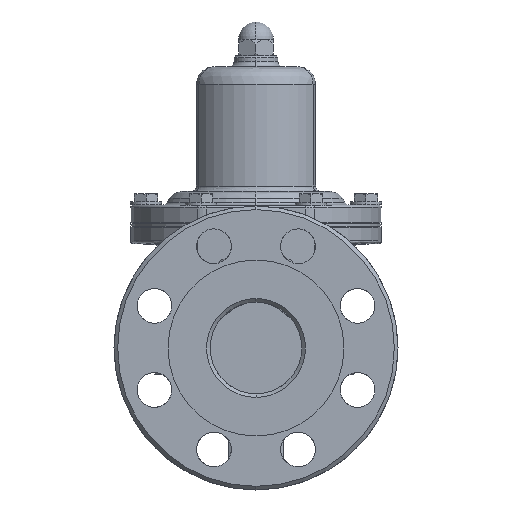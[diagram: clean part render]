
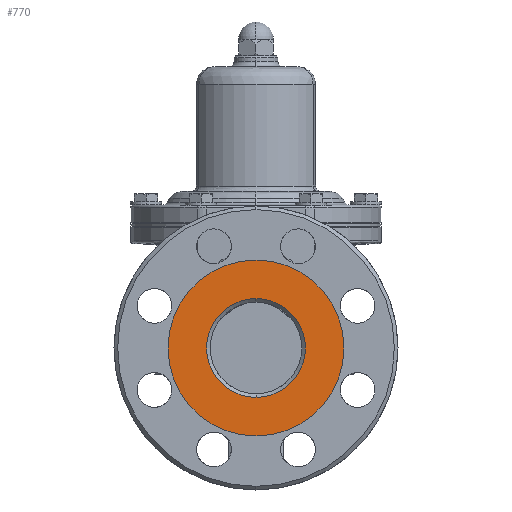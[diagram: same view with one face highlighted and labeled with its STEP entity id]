
A CAD part, left-side view. The second image highlights one B-rep face of the part: STEP entity #770.
In plain terms, the highlighted planar face has unit normal (-1, 0, 0).
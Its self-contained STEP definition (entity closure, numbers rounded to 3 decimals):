
#770=ADVANCED_FACE('',(#4408,#4409),#4407,.T.);
#4407=PLANE('',#10446);
#4408=FACE_OUTER_BOUND('',#10447,.T.);
#4409=FACE_BOUND('',#10448,.T.);
#10443=CARTESIAN_POINT('',(-122.5,-93.138,-106.));
#10444=DIRECTION('',(-1.,0.,0.));
#10445=DIRECTION('',(0.,0.,1.));
#10446=AXIS2_PLACEMENT_3D('',#10443,#10444,#10445);
#10447=EDGE_LOOP('',(#14285,#14286));
#10448=EDGE_LOOP('',(#14287,#14288));
#14285=ORIENTED_EDGE('',*,*,#16275,.T.);
#14286=ORIENTED_EDGE('',*,*,#16276,.T.);
#14287=ORIENTED_EDGE('',*,*,#16277,.F.);
#14288=ORIENTED_EDGE('',*,*,#16278,.F.);
#16275=EDGE_CURVE('',#22986,#22987,#22988,.T.);
#16276=EDGE_CURVE('',#22987,#22986,#22994,.T.);
#16277=EDGE_CURVE('',#23000,#23001,#23002,.T.);
#16278=EDGE_CURVE('',#23001,#23000,#23008,.T.);
#22986=VERTEX_POINT('',#32111);
#22987=VERTEX_POINT('',#32112);
#22988=CIRCLE('',#32116,48.);
#22994=CIRCLE('',#32120,48.);
#23000=VERTEX_POINT('',#32121);
#23001=VERTEX_POINT('',#32122);
#23002=CIRCLE('',#32126,27.);
#23008=CIRCLE('',#32130,27.);
#32111=CARTESIAN_POINT('',(-122.5,0.,48.));
#32112=CARTESIAN_POINT('',(-122.5,0.,-48.));
#32113=CARTESIAN_POINT('',(-122.5,0.,0.));
#32114=DIRECTION('',(-1.,0.,0.));
#32115=DIRECTION('',(0.,0.,1.));
#32116=AXIS2_PLACEMENT_3D('',#32113,#32114,#32115);
#32117=CARTESIAN_POINT('',(-122.5,0.,0.));
#32118=DIRECTION('',(-1.,0.,0.));
#32119=DIRECTION('',(0.,0.,1.));
#32120=AXIS2_PLACEMENT_3D('',#32117,#32118,#32119);
#32121=CARTESIAN_POINT('',(-122.5,0.,-27.));
#32122=CARTESIAN_POINT('',(-122.5,0.,27.));
#32123=CARTESIAN_POINT('',(-122.5,0.,0.));
#32124=DIRECTION('',(-1.,0.,0.));
#32125=DIRECTION('',(0.,0.,1.));
#32126=AXIS2_PLACEMENT_3D('',#32123,#32124,#32125);
#32127=CARTESIAN_POINT('',(-122.5,0.,0.));
#32128=DIRECTION('',(-1.,0.,0.));
#32129=DIRECTION('',(0.,0.,1.));
#32130=AXIS2_PLACEMENT_3D('',#32127,#32128,#32129);
